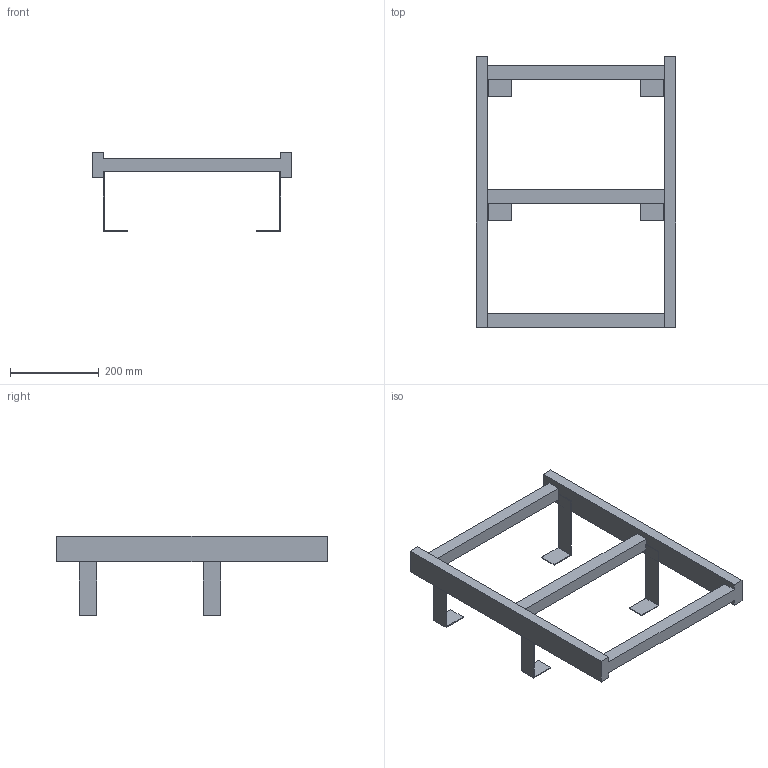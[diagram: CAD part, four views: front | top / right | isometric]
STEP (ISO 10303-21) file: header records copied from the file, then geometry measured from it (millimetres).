
FILE_DESCRIPTION((''),'2;1');
FILE_NAME('52311069','2024-10-17T13:01:53',('wep'),('HUBER SE'),'CREO PARAMETRIC BY PTC INC, 2022162','CREO PARAMETRIC BY PTC INC, 2022162','');
FILE_SCHEMA(('AUTOMOTIVE_DESIGN { 1 0 10303 214 1 1 1 1 }'));
Length unit declared in the file: millimetre
Products named in the file (1): 52311069
Bounding box: 450 x 610 x 178.5 mm (x, y, z)
Volume: 2883460 mm3; surface area: 403868 mm2
Topology: 1 solids, 1 shells, 54 faces, 156 edges, 100 vertices
Faces by surface type: plane 54
Entity records: 2301 total; most frequent: CARTESIAN_POINT 312, ORIENTED_EDGE 312, DIRECTION 264, VECTOR 156, LINE 156, EDGE_CURVE 156, COLOUR_RGB 106, VERTEX_POINT 100
